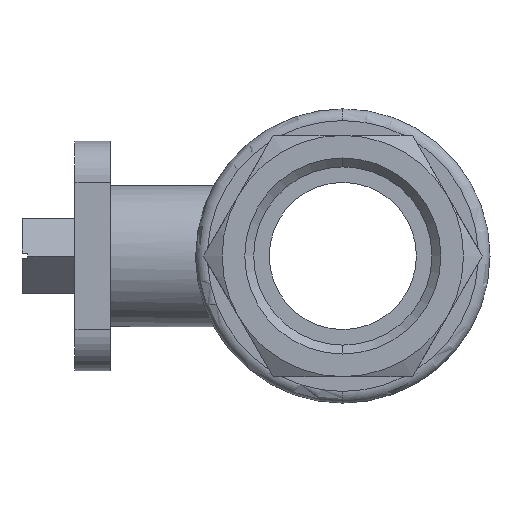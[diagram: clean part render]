
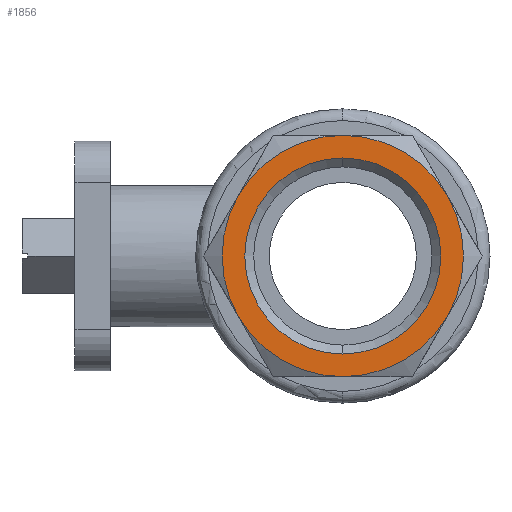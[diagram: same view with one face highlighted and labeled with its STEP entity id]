
A CAD part, left-side view. The second image highlights one B-rep face of the part: STEP entity #1856.
In plain terms, the highlighted planar face has unit normal (-1, 0, 0).
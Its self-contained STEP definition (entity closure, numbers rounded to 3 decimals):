
#144 = CARTESIAN_POINT ( 'NONE',  ( -45., 23.671, 0. ) ) ;
#145 = PLANE ( 'NONE',  #3963 ) ;
#146 = DIRECTION ( 'NONE',  ( 1., 0., 0. ) ) ;
#147 = DIRECTION ( 'NONE',  ( 0., 0., -1. ) ) ;
#243 = CARTESIAN_POINT ( 'NONE',  ( -45., 17.754, 10.25 ) ) ;
#261 = CARTESIAN_POINT ( 'NONE',  ( -45., -17.754, -10.25 ) ) ;
#263 = CARTESIAN_POINT ( 'NONE',  ( -45., 17.754, -10.25 ) ) ;
#265 = CARTESIAN_POINT ( 'NONE',  ( -45., 0., -20.5 ) ) ;
#286 = CARTESIAN_POINT ( 'NONE',  ( -45., 0., -16.65 ) ) ;
#287 = CARTESIAN_POINT ( 'NONE',  ( -45., 0., 16.65 ) ) ;
#340 = CARTESIAN_POINT ( 'NONE',  ( -45., 0., 20.5 ) ) ;
#366 = CARTESIAN_POINT ( 'NONE',  ( -45., -17.754, 10.25 ) ) ;
#691 = CARTESIAN_POINT ( 'NONE',  ( -45., 0., 0. ) ) ;
#693 = DIRECTION ( 'NONE',  ( -1., 0., 0. ) ) ;
#694 = DIRECTION ( 'NONE',  ( 0., 0., 1. ) ) ;
#1364 = CARTESIAN_POINT ( 'NONE',  ( -45., 0., 0. ) ) ;
#1365 = CARTESIAN_POINT ( 'NONE',  ( -45., 0., 0. ) ) ;
#1366 = DIRECTION ( 'NONE',  ( -1., 0., 0. ) ) ;
#1367 = DIRECTION ( 'NONE',  ( 0., 0., 1. ) ) ;
#1368 = CARTESIAN_POINT ( 'NONE',  ( -45., 0., 0. ) ) ;
#1369 = CARTESIAN_POINT ( 'NONE',  ( -45., 0., 0. ) ) ;
#1370 = DIRECTION ( 'NONE',  ( -1., 0., 0. ) ) ;
#1371 = DIRECTION ( 'NONE',  ( 0., 0., 1. ) ) ;
#1372 = CARTESIAN_POINT ( 'NONE',  ( -45., 0., 0. ) ) ;
#1373 = DIRECTION ( 'NONE',  ( -1., 0., 0. ) ) ;
#1374 = DIRECTION ( 'NONE',  ( 0., 0., 1. ) ) ;
#1375 = DIRECTION ( 'NONE',  ( -1., 0., 0. ) ) ;
#1376 = DIRECTION ( 'NONE',  ( 0., 0., 1. ) ) ;
#1377 = DIRECTION ( 'NONE',  ( -1., 0., 0. ) ) ;
#1378 = DIRECTION ( 'NONE',  ( 0., 0., 1. ) ) ;
#1452 = CARTESIAN_POINT ( 'NONE',  ( -45., 0., 0. ) ) ;
#1454 = DIRECTION ( 'NONE',  ( -1., 0., 0. ) ) ;
#1455 = DIRECTION ( 'NONE',  ( 0., 0., 1. ) ) ;
#1505 = CARTESIAN_POINT ( 'NONE',  ( -45., 0., 0. ) ) ;
#1507 = DIRECTION ( 'NONE',  ( -1., 0., 0. ) ) ;
#1508 = DIRECTION ( 'NONE',  ( 0., 0., 1. ) ) ;
#1856 = ADVANCED_FACE ( 'NONE', ( #3445, #3447 ), #145, .F. ) ;
#1924 = VERTEX_POINT ( 'NONE', #243 ) ;
#1942 = VERTEX_POINT ( 'NONE', #261 ) ;
#1944 = VERTEX_POINT ( 'NONE', #263 ) ;
#1946 = VERTEX_POINT ( 'NONE', #265 ) ;
#1967 = VERTEX_POINT ( 'NONE', #286 ) ;
#1968 = VERTEX_POINT ( 'NONE', #287 ) ;
#2021 = VERTEX_POINT ( 'NONE', #340 ) ;
#2047 = VERTEX_POINT ( 'NONE', #366 ) ;
#2649 = ORIENTED_EDGE ( 'NONE', *, *, #3192, .T. ) ;
#2650 = ORIENTED_EDGE ( 'NONE', *, *, #3207, .T. ) ;
#2651 = ORIENTED_EDGE ( 'NONE', *, *, #3195, .T. ) ;
#2652 = ORIENTED_EDGE ( 'NONE', *, *, #3215, .T. ) ;
#2653 = ORIENTED_EDGE ( 'NONE', *, *, #3196, .T. ) ;
#2654 = ORIENTED_EDGE ( 'NONE', *, *, #3193, .T. ) ;
#2655 = ORIENTED_EDGE ( 'NONE', *, *, #3088, .F. ) ;
#2656 = ORIENTED_EDGE ( 'NONE', *, *, #3194, .F. ) ;
#2756 = EDGE_LOOP ( 'NONE', ( #2656, #2655 ) ) ;
#2762 = EDGE_LOOP ( 'NONE', ( #2654, #2653, #2652, #2651, #2650, #2649 ) ) ;
#3088 = EDGE_CURVE ( 'NONE', #1967, #1968, #3596, .T. ) ;
#3192 = EDGE_CURVE ( 'NONE', #1924, #1944, #3687, .T. ) ;
#3193 = EDGE_CURVE ( 'NONE', #1944, #1946, #3689, .T. ) ;
#3194 = EDGE_CURVE ( 'NONE', #1968, #1967, #3691, .T. ) ;
#3195 = EDGE_CURVE ( 'NONE', #2047, #2021, #3693, .T. ) ;
#3196 = EDGE_CURVE ( 'NONE', #1946, #1942, #3694, .T. ) ;
#3207 = EDGE_CURVE ( 'NONE', #2021, #1924, #3710, .T. ) ;
#3215 = EDGE_CURVE ( 'NONE', #1942, #2047, #3717, .T. ) ;
#3445 = FACE_BOUND ( 'NONE', #2756, .T. ) ;
#3447 = FACE_OUTER_BOUND ( 'NONE', #2762, .T. ) ;
#3596 = CIRCLE ( 'NONE', #4025, 16.65 ) ;
#3687 = CIRCLE ( 'NONE', #4042, 20.5 ) ;
#3689 = CIRCLE ( 'NONE', #4041, 20.5 ) ;
#3691 = CIRCLE ( 'NONE', #4043, 16.65 ) ;
#3693 = CIRCLE ( 'NONE', #4044, 20.5 ) ;
#3694 = CIRCLE ( 'NONE', #4045, 20.5 ) ;
#3710 = CIRCLE ( 'NONE', #4046, 20.5 ) ;
#3717 = CIRCLE ( 'NONE', #4052, 20.5 ) ;
#3963 = AXIS2_PLACEMENT_3D ( 'NONE', #144, #146, #147 ) ;
#4025 = AXIS2_PLACEMENT_3D ( 'NONE', #691, #693, #694 ) ;
#4041 = AXIS2_PLACEMENT_3D ( 'NONE', #1368, #1370, #1371 ) ;
#4042 = AXIS2_PLACEMENT_3D ( 'NONE', #1364, #1366, #1367 ) ;
#4043 = AXIS2_PLACEMENT_3D ( 'NONE', #1365, #1373, #1374 ) ;
#4044 = AXIS2_PLACEMENT_3D ( 'NONE', #1369, #1375, #1376 ) ;
#4045 = AXIS2_PLACEMENT_3D ( 'NONE', #1372, #1377, #1378 ) ;
#4046 = AXIS2_PLACEMENT_3D ( 'NONE', #1452, #1454, #1455 ) ;
#4052 = AXIS2_PLACEMENT_3D ( 'NONE', #1505, #1507, #1508 ) ;
